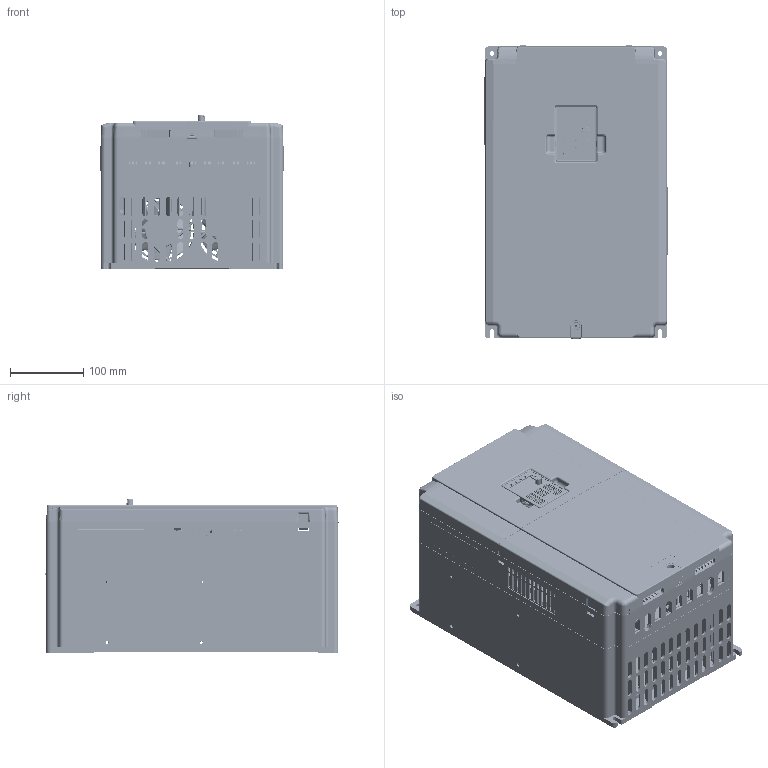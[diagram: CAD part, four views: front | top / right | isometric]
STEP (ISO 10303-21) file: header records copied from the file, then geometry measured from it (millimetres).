
FILE_DESCRIPTION((''),'2;1');
FILE_NAME('GD100-037G-4_ASM','2016-12-13T',('Administrator'),(''),'PRO/ENGINEER BY PARAMETRIC TECHNOLOGY CORPORATION, 2010100','PRO/ENGINEER BY PARAMETRIC TECHNOLOGY CORPORATION, 2010100','');
FILE_SCHEMA(('CONFIG_CONTROL_DESIGN'));
Products named in the file (18): 80740138; 80740136; 80740137; 80740133; 80740135; 80740134; 80740019; 80310368; 0_BOTTOM_PLATE_ASM; 80810010; 80710012; LD100-JP-PCB; 80740127; GD100-JP_ASM; 0_DIANKANGQI_37KW; 3-55-03-001; FAN_92_38_; GD100-037G-4_ASM
Assembly tree (20 placements, depth 3):
  GD100-037G-4_ASM
    80740138
    80740136
    80740137
    80740133
    80740135
    80740134
    80740019  x2
    0_BOTTOM_PLATE_ASM
      80310368
    GD100-JP_ASM
      80810010
      80710012
      LD100-JP-PCB
      80740127
    0_DIANKANGQI_37KW
    3-55-03-001  x2
    FAN_92_38_  x2
Bounding box: 250.6 x 401.49 x 209.85 mm (x, y, z)
Volume: 2694125.3 mm3; surface area: 1728792.3 mm2
Topology: 18 solids, 18 shells, 8577 faces, 24314 edges, 15826 vertices
Faces by surface type: plane 5507, cylinder 2026, cone 523, torus 195, bspline 194, extrusion 84, revolution 32, sphere 16
Entity records: 283525 total; most frequent: CARTESIAN_POINT 65306, ORIENTED_EDGE 47114, DIRECTION 43061, EDGE_CURVE 23557, VECTOR 17007, LINE 16937, VERTEX_POINT 15349, AXIS2_PLACEMENT_3D 13019
